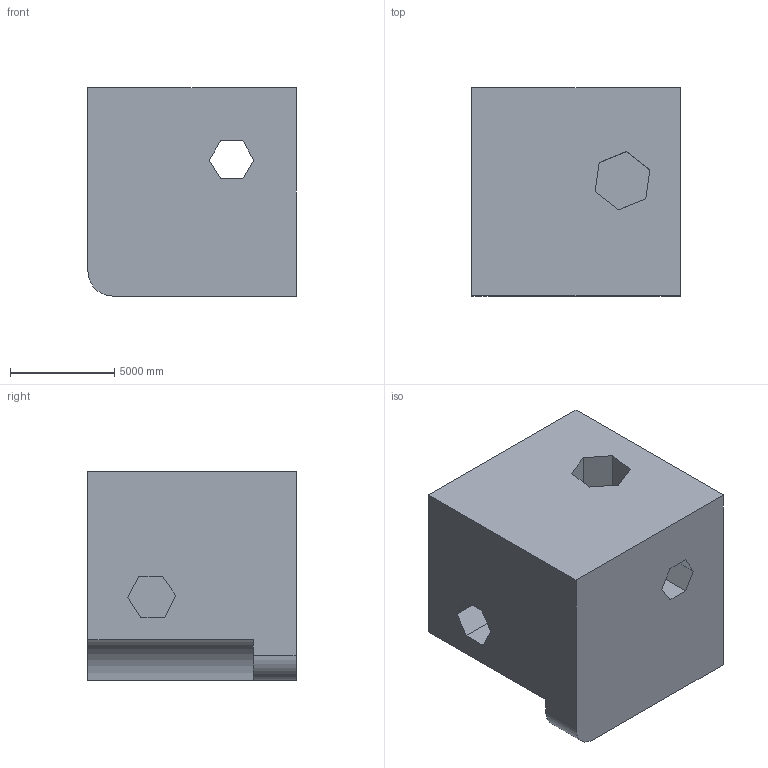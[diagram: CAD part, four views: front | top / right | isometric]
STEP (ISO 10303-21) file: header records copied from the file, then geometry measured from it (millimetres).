
FILE_DESCRIPTION (( 'STEP AP203' ), '1' );
FILE_NAME ('429.STEP', '2022-07-29T11:14:44', ( 'user' ), ( '' ), 'SwSTEP 2.0', 'SolidWorks 2021', '' );
FILE_SCHEMA (( 'CONFIG_CONTROL_DESIGN' ));
Length unit declared in the file: centimetre
Products named in the file (1): 429
Bounding box: 10000 x 10000 x 10000 mm (x, y, z)
Volume: 898348230940.7 mm3; surface area: 725531329.3 mm2
Topology: 1 solids, 1 shells, 36 faces, 102 edges, 68 vertices
Faces by surface type: plane 34, cylinder 2
Entity records: 1235 total; most frequent: CARTESIAN_POINT 207, ORIENTED_EDGE 204, DIRECTION 180, EDGE_CURVE 102, VECTOR 98, LINE 98, VERTEX_POINT 68, AXIS2_PLACEMENT_3D 41
